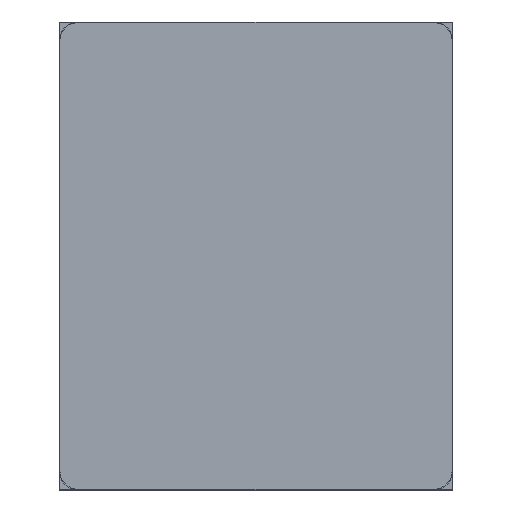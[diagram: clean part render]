
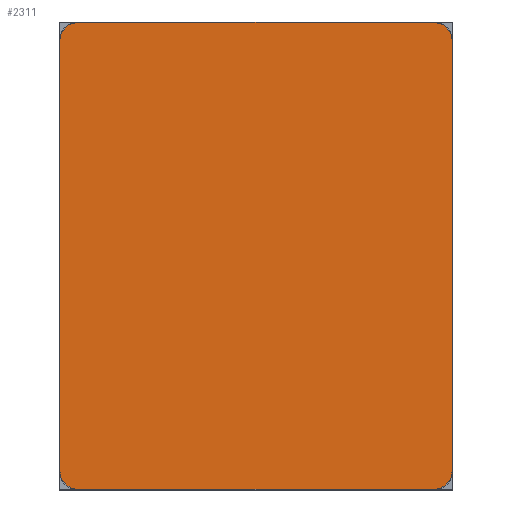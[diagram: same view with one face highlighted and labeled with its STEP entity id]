
A CAD part, top view. The second image highlights one B-rep face of the part: STEP entity #2311.
In plain terms, the highlighted planar face has unit normal (0, 0, 1).
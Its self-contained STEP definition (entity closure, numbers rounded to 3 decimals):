
#1676 = VERTEX_POINT('',#1677);
#1677 = CARTESIAN_POINT('',(-19.,-25.,0.));
#1684 = PLANE('',#1685);
#1685 = AXIS2_PLACEMENT_3D('',#1686,#1687,#1688);
#1686 = CARTESIAN_POINT('',(-19.,-25.,-2.5));
#1687 = DIRECTION('',(0.,1.,0.));
#1688 = DIRECTION('',(1.,0.,0.));
#1696 = CYLINDRICAL_SURFACE('',#1697,2.);
#1697 = AXIS2_PLACEMENT_3D('',#1698,#1699,#1700);
#1698 = CARTESIAN_POINT('',(-19.,-23.,-2.5));
#1699 = DIRECTION('',(-0.,0.,-1.));
#1700 = DIRECTION('',(1.,0.,0.));
#1708 = EDGE_CURVE('',#1676,#1709,#1711,.T.);
#1709 = VERTEX_POINT('',#1710);
#1710 = CARTESIAN_POINT('',(19.,-25.,0.));
#1711 = SURFACE_CURVE('',#1712,(#1716,#1723),.PCURVE_S1.);
#1712 = LINE('',#1713,#1714);
#1713 = CARTESIAN_POINT('',(-19.,-25.,0.));
#1714 = VECTOR('',#1715,1.);
#1715 = DIRECTION('',(1.,0.,0.));
#1716 = PCURVE('',#1684,#1717);
#1717 = DEFINITIONAL_REPRESENTATION('',(#1718),#1722);
#1718 = LINE('',#1719,#1720);
#1719 = CARTESIAN_POINT('',(0.,-2.5));
#1720 = VECTOR('',#1721,1.);
#1721 = DIRECTION('',(1.,0.));
#1722 = ( GEOMETRIC_REPRESENTATION_CONTEXT(2) 
PARAMETRIC_REPRESENTATION_CONTEXT() REPRESENTATION_CONTEXT('2D SPACE',''
  ) );
#1723 = PCURVE('',#1724,#1729);
#1724 = PLANE('',#1725);
#1725 = AXIS2_PLACEMENT_3D('',#1726,#1727,#1728);
#1726 = CARTESIAN_POINT('',(0.,0.,0.));
#1727 = DIRECTION('',(0.,0.,1.));
#1728 = DIRECTION('',(1.,0.,-0.));
#1729 = DEFINITIONAL_REPRESENTATION('',(#1730),#1734);
#1730 = LINE('',#1731,#1732);
#1731 = CARTESIAN_POINT('',(-19.,-25.));
#1732 = VECTOR('',#1733,1.);
#1733 = DIRECTION('',(1.,0.));
#1734 = ( GEOMETRIC_REPRESENTATION_CONTEXT(2) 
PARAMETRIC_REPRESENTATION_CONTEXT() REPRESENTATION_CONTEXT('2D SPACE',''
  ) );
#1752 = CYLINDRICAL_SURFACE('',#1753,2.);
#1753 = AXIS2_PLACEMENT_3D('',#1754,#1755,#1756);
#1754 = CARTESIAN_POINT('',(19.,-23.,-2.5));
#1755 = DIRECTION('',(-0.,0.,-1.));
#1756 = DIRECTION('',(1.,0.,0.));
#1796 = VERTEX_POINT('',#1797);
#1797 = CARTESIAN_POINT('',(-21.,-23.,0.));
#1811 = PLANE('',#1812);
#1812 = AXIS2_PLACEMENT_3D('',#1813,#1814,#1815);
#1813 = CARTESIAN_POINT('',(-21.,23.,-2.5));
#1814 = DIRECTION('',(1.,0.,-0.));
#1815 = DIRECTION('',(0.,-1.,0.));
#1823 = EDGE_CURVE('',#1796,#1676,#1824,.T.);
#1824 = SURFACE_CURVE('',#1825,(#1830,#1837),.PCURVE_S1.);
#1825 = CIRCLE('',#1826,2.);
#1826 = AXIS2_PLACEMENT_3D('',#1827,#1828,#1829);
#1827 = CARTESIAN_POINT('',(-19.,-23.,0.));
#1828 = DIRECTION('',(0.,-0.,1.));
#1829 = DIRECTION('',(1.,0.,0.));
#1830 = PCURVE('',#1696,#1831);
#1831 = DEFINITIONAL_REPRESENTATION('',(#1832),#1836);
#1832 = LINE('',#1833,#1834);
#1833 = CARTESIAN_POINT('',(-0.,-2.5));
#1834 = VECTOR('',#1835,1.);
#1835 = DIRECTION('',(-1.,0.));
#1836 = ( GEOMETRIC_REPRESENTATION_CONTEXT(2) 
PARAMETRIC_REPRESENTATION_CONTEXT() REPRESENTATION_CONTEXT('2D SPACE',''
  ) );
#1837 = PCURVE('',#1724,#1838);
#1838 = DEFINITIONAL_REPRESENTATION('',(#1839),#1843);
#1839 = CIRCLE('',#1840,2.);
#1840 = AXIS2_PLACEMENT_2D('',#1841,#1842);
#1841 = CARTESIAN_POINT('',(-19.,-23.));
#1842 = DIRECTION('',(1.,0.));
#1843 = ( GEOMETRIC_REPRESENTATION_CONTEXT(2) 
PARAMETRIC_REPRESENTATION_CONTEXT() REPRESENTATION_CONTEXT('2D SPACE',''
  ) );
#1872 = EDGE_CURVE('',#1709,#1873,#1875,.T.);
#1873 = VERTEX_POINT('',#1874);
#1874 = CARTESIAN_POINT('',(21.,-23.,0.));
#1875 = SURFACE_CURVE('',#1876,(#1881,#1888),.PCURVE_S1.);
#1876 = CIRCLE('',#1877,2.);
#1877 = AXIS2_PLACEMENT_3D('',#1878,#1879,#1880);
#1878 = CARTESIAN_POINT('',(19.,-23.,0.));
#1879 = DIRECTION('',(0.,-0.,1.));
#1880 = DIRECTION('',(1.,0.,0.));
#1881 = PCURVE('',#1752,#1882);
#1882 = DEFINITIONAL_REPRESENTATION('',(#1883),#1887);
#1883 = LINE('',#1884,#1885);
#1884 = CARTESIAN_POINT('',(-0.,-2.5));
#1885 = VECTOR('',#1886,1.);
#1886 = DIRECTION('',(-1.,0.));
#1887 = ( GEOMETRIC_REPRESENTATION_CONTEXT(2) 
PARAMETRIC_REPRESENTATION_CONTEXT() REPRESENTATION_CONTEXT('2D SPACE',''
  ) );
#1888 = PCURVE('',#1724,#1889);
#1889 = DEFINITIONAL_REPRESENTATION('',(#1890),#1894);
#1890 = CIRCLE('',#1891,2.);
#1891 = AXIS2_PLACEMENT_2D('',#1892,#1893);
#1892 = CARTESIAN_POINT('',(19.,-23.));
#1893 = DIRECTION('',(1.,0.));
#1894 = ( GEOMETRIC_REPRESENTATION_CONTEXT(2) 
PARAMETRIC_REPRESENTATION_CONTEXT() REPRESENTATION_CONTEXT('2D SPACE',''
  ) );
#1912 = PLANE('',#1913);
#1913 = AXIS2_PLACEMENT_3D('',#1914,#1915,#1916);
#1914 = CARTESIAN_POINT('',(21.,-23.,-2.5));
#1915 = DIRECTION('',(-1.,0.,0.));
#1916 = DIRECTION('',(0.,1.,0.));
#1991 = CYLINDRICAL_SURFACE('',#1992,2.);
#1992 = AXIS2_PLACEMENT_3D('',#1993,#1994,#1995);
#1993 = CARTESIAN_POINT('',(19.,23.,-2.5));
#1994 = DIRECTION('',(-0.,0.,-1.));
#1995 = DIRECTION('',(1.,0.,0.));
#2019 = PLANE('',#2020);
#2020 = AXIS2_PLACEMENT_3D('',#2021,#2022,#2023);
#2021 = CARTESIAN_POINT('',(19.,25.,-2.5));
#2022 = DIRECTION('',(0.,-1.,0.));
#2023 = DIRECTION('',(-1.,0.,0.));
#2048 = CYLINDRICAL_SURFACE('',#2049,2.);
#2049 = AXIS2_PLACEMENT_3D('',#2050,#2051,#2052);
#2050 = CARTESIAN_POINT('',(-19.,23.,-2.5));
#2051 = DIRECTION('',(-0.,0.,-1.));
#2052 = DIRECTION('',(1.,0.,0.));
#2311 = ADVANCED_FACE('',(#2312),#1724,.T.);
#2312 = FACE_BOUND('',#2313,.T.);
#2313 = EDGE_LOOP('',(#2314,#2315,#2316,#2339,#2363,#2386,#2410,#2431));
#2314 = ORIENTED_EDGE('',*,*,#1708,.T.);
#2315 = ORIENTED_EDGE('',*,*,#1872,.T.);
#2316 = ORIENTED_EDGE('',*,*,#2317,.T.);
#2317 = EDGE_CURVE('',#1873,#2318,#2320,.T.);
#2318 = VERTEX_POINT('',#2319);
#2319 = CARTESIAN_POINT('',(21.,23.,0.));
#2320 = SURFACE_CURVE('',#2321,(#2325,#2332),.PCURVE_S1.);
#2321 = LINE('',#2322,#2323);
#2322 = CARTESIAN_POINT('',(21.,-23.,0.));
#2323 = VECTOR('',#2324,1.);
#2324 = DIRECTION('',(0.,1.,0.));
#2325 = PCURVE('',#1724,#2326);
#2326 = DEFINITIONAL_REPRESENTATION('',(#2327),#2331);
#2327 = LINE('',#2328,#2329);
#2328 = CARTESIAN_POINT('',(21.,-23.));
#2329 = VECTOR('',#2330,1.);
#2330 = DIRECTION('',(0.,1.));
#2331 = ( GEOMETRIC_REPRESENTATION_CONTEXT(2) 
PARAMETRIC_REPRESENTATION_CONTEXT() REPRESENTATION_CONTEXT('2D SPACE',''
  ) );
#2332 = PCURVE('',#1912,#2333);
#2333 = DEFINITIONAL_REPRESENTATION('',(#2334),#2338);
#2334 = LINE('',#2335,#2336);
#2335 = CARTESIAN_POINT('',(0.,-2.5));
#2336 = VECTOR('',#2337,1.);
#2337 = DIRECTION('',(1.,0.));
#2338 = ( GEOMETRIC_REPRESENTATION_CONTEXT(2) 
PARAMETRIC_REPRESENTATION_CONTEXT() REPRESENTATION_CONTEXT('2D SPACE',''
  ) );
#2339 = ORIENTED_EDGE('',*,*,#2340,.T.);
#2340 = EDGE_CURVE('',#2318,#2341,#2343,.T.);
#2341 = VERTEX_POINT('',#2342);
#2342 = CARTESIAN_POINT('',(19.,25.,0.));
#2343 = SURFACE_CURVE('',#2344,(#2349,#2356),.PCURVE_S1.);
#2344 = CIRCLE('',#2345,2.);
#2345 = AXIS2_PLACEMENT_3D('',#2346,#2347,#2348);
#2346 = CARTESIAN_POINT('',(19.,23.,0.));
#2347 = DIRECTION('',(0.,-0.,1.));
#2348 = DIRECTION('',(1.,0.,0.));
#2349 = PCURVE('',#1724,#2350);
#2350 = DEFINITIONAL_REPRESENTATION('',(#2351),#2355);
#2351 = CIRCLE('',#2352,2.);
#2352 = AXIS2_PLACEMENT_2D('',#2353,#2354);
#2353 = CARTESIAN_POINT('',(19.,23.));
#2354 = DIRECTION('',(1.,0.));
#2355 = ( GEOMETRIC_REPRESENTATION_CONTEXT(2) 
PARAMETRIC_REPRESENTATION_CONTEXT() REPRESENTATION_CONTEXT('2D SPACE',''
  ) );
#2356 = PCURVE('',#1991,#2357);
#2357 = DEFINITIONAL_REPRESENTATION('',(#2358),#2362);
#2358 = LINE('',#2359,#2360);
#2359 = CARTESIAN_POINT('',(-0.,-2.5));
#2360 = VECTOR('',#2361,1.);
#2361 = DIRECTION('',(-1.,0.));
#2362 = ( GEOMETRIC_REPRESENTATION_CONTEXT(2) 
PARAMETRIC_REPRESENTATION_CONTEXT() REPRESENTATION_CONTEXT('2D SPACE',''
  ) );
#2363 = ORIENTED_EDGE('',*,*,#2364,.T.);
#2364 = EDGE_CURVE('',#2341,#2365,#2367,.T.);
#2365 = VERTEX_POINT('',#2366);
#2366 = CARTESIAN_POINT('',(-19.,25.,0.));
#2367 = SURFACE_CURVE('',#2368,(#2372,#2379),.PCURVE_S1.);
#2368 = LINE('',#2369,#2370);
#2369 = CARTESIAN_POINT('',(19.,25.,0.));
#2370 = VECTOR('',#2371,1.);
#2371 = DIRECTION('',(-1.,0.,0.));
#2372 = PCURVE('',#1724,#2373);
#2373 = DEFINITIONAL_REPRESENTATION('',(#2374),#2378);
#2374 = LINE('',#2375,#2376);
#2375 = CARTESIAN_POINT('',(19.,25.));
#2376 = VECTOR('',#2377,1.);
#2377 = DIRECTION('',(-1.,0.));
#2378 = ( GEOMETRIC_REPRESENTATION_CONTEXT(2) 
PARAMETRIC_REPRESENTATION_CONTEXT() REPRESENTATION_CONTEXT('2D SPACE',''
  ) );
#2379 = PCURVE('',#2019,#2380);
#2380 = DEFINITIONAL_REPRESENTATION('',(#2381),#2385);
#2381 = LINE('',#2382,#2383);
#2382 = CARTESIAN_POINT('',(0.,-2.5));
#2383 = VECTOR('',#2384,1.);
#2384 = DIRECTION('',(1.,0.));
#2385 = ( GEOMETRIC_REPRESENTATION_CONTEXT(2) 
PARAMETRIC_REPRESENTATION_CONTEXT() REPRESENTATION_CONTEXT('2D SPACE',''
  ) );
#2386 = ORIENTED_EDGE('',*,*,#2387,.T.);
#2387 = EDGE_CURVE('',#2365,#2388,#2390,.T.);
#2388 = VERTEX_POINT('',#2389);
#2389 = CARTESIAN_POINT('',(-21.,23.,0.));
#2390 = SURFACE_CURVE('',#2391,(#2396,#2403),.PCURVE_S1.);
#2391 = CIRCLE('',#2392,2.);
#2392 = AXIS2_PLACEMENT_3D('',#2393,#2394,#2395);
#2393 = CARTESIAN_POINT('',(-19.,23.,0.));
#2394 = DIRECTION('',(0.,-0.,1.));
#2395 = DIRECTION('',(1.,0.,0.));
#2396 = PCURVE('',#1724,#2397);
#2397 = DEFINITIONAL_REPRESENTATION('',(#2398),#2402);
#2398 = CIRCLE('',#2399,2.);
#2399 = AXIS2_PLACEMENT_2D('',#2400,#2401);
#2400 = CARTESIAN_POINT('',(-19.,23.));
#2401 = DIRECTION('',(1.,0.));
#2402 = ( GEOMETRIC_REPRESENTATION_CONTEXT(2) 
PARAMETRIC_REPRESENTATION_CONTEXT() REPRESENTATION_CONTEXT('2D SPACE',''
  ) );
#2403 = PCURVE('',#2048,#2404);
#2404 = DEFINITIONAL_REPRESENTATION('',(#2405),#2409);
#2405 = LINE('',#2406,#2407);
#2406 = CARTESIAN_POINT('',(-0.,-2.5));
#2407 = VECTOR('',#2408,1.);
#2408 = DIRECTION('',(-1.,0.));
#2409 = ( GEOMETRIC_REPRESENTATION_CONTEXT(2) 
PARAMETRIC_REPRESENTATION_CONTEXT() REPRESENTATION_CONTEXT('2D SPACE',''
  ) );
#2410 = ORIENTED_EDGE('',*,*,#2411,.T.);
#2411 = EDGE_CURVE('',#2388,#1796,#2412,.T.);
#2412 = SURFACE_CURVE('',#2413,(#2417,#2424),.PCURVE_S1.);
#2413 = LINE('',#2414,#2415);
#2414 = CARTESIAN_POINT('',(-21.,23.,0.));
#2415 = VECTOR('',#2416,1.);
#2416 = DIRECTION('',(0.,-1.,-0.));
#2417 = PCURVE('',#1724,#2418);
#2418 = DEFINITIONAL_REPRESENTATION('',(#2419),#2423);
#2419 = LINE('',#2420,#2421);
#2420 = CARTESIAN_POINT('',(-21.,23.));
#2421 = VECTOR('',#2422,1.);
#2422 = DIRECTION('',(0.,-1.));
#2423 = ( GEOMETRIC_REPRESENTATION_CONTEXT(2) 
PARAMETRIC_REPRESENTATION_CONTEXT() REPRESENTATION_CONTEXT('2D SPACE',''
  ) );
#2424 = PCURVE('',#1811,#2425);
#2425 = DEFINITIONAL_REPRESENTATION('',(#2426),#2430);
#2426 = LINE('',#2427,#2428);
#2427 = CARTESIAN_POINT('',(0.,-2.5));
#2428 = VECTOR('',#2429,1.);
#2429 = DIRECTION('',(1.,0.));
#2430 = ( GEOMETRIC_REPRESENTATION_CONTEXT(2) 
PARAMETRIC_REPRESENTATION_CONTEXT() REPRESENTATION_CONTEXT('2D SPACE',''
  ) );
#2431 = ORIENTED_EDGE('',*,*,#1823,.T.);
